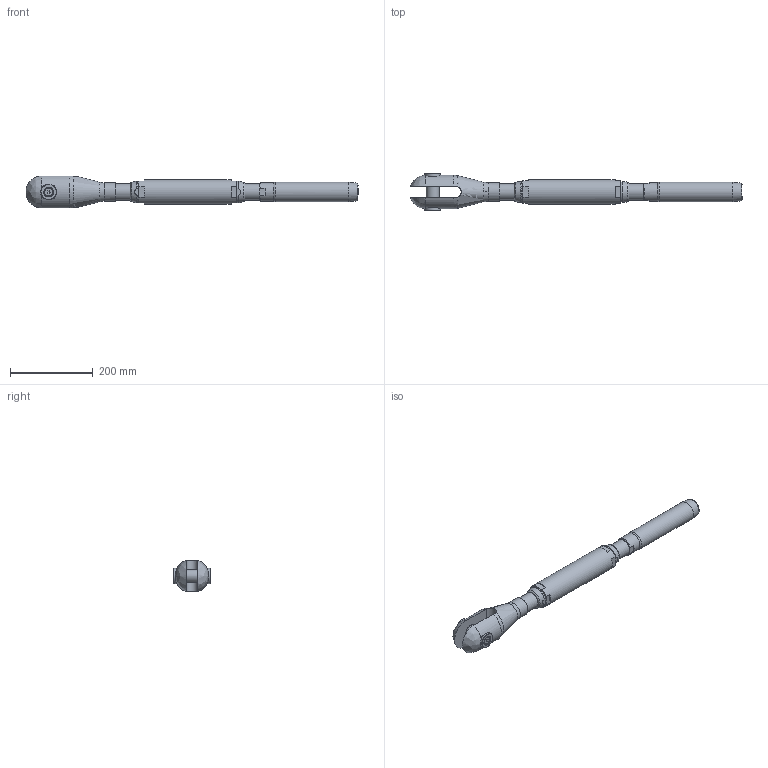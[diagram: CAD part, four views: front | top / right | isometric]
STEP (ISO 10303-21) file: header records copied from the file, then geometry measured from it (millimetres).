
FILE_DESCRIPTION(/* description */ (''),/* implementation_level */ '2;1');
FILE_NAME(/* name */ 'TBC 22_S355',/* time_stamp */ '2023-05-23T18:17:37+02:00',/* author */ (''),/* organization */ (''),/* preprocessor_version */ 'ST-DEVELOPER v16.5',/* originating_system */ 'Rhino 7.22',/* authorisation */ '');
FILE_SCHEMA (('CONFIG_CONTROL_DESIGN'));
Length unit declared in the file: millimetre
Products named in the file (1): Document
Bounding box: 800.13 x 87.97 x 76.37 mm (x, y, z)
Volume: 1683278.1 mm3; surface area: 242818.6 mm2
Topology: 10 solids, 10 shells, 141 faces, 384 edges, 265 vertices
Faces by surface type: plane 65, bspline 41, cylinder 35
Full cylindrical faces by diameter (mm): 10 x2, 10.106 x2, 12.5 x2, 19.22 x2, 31 x1, 33 x2, 35.752 x4, 37 x2, 39 x2, 43 x1, 44.5 x2, 46.8 x1, 59 x1
Entity records: 5934 total; most frequent: CARTESIAN_POINT 3498, ORIENTED_EDGE 760, EDGE_CURVE 380, VERTEX_POINT 265, EDGE_LOOP 161, B_SPLINE_CURVE_WITH_KNOTS 158, ADVANCED_FACE 141, FACE_OUTER_BOUND 141
